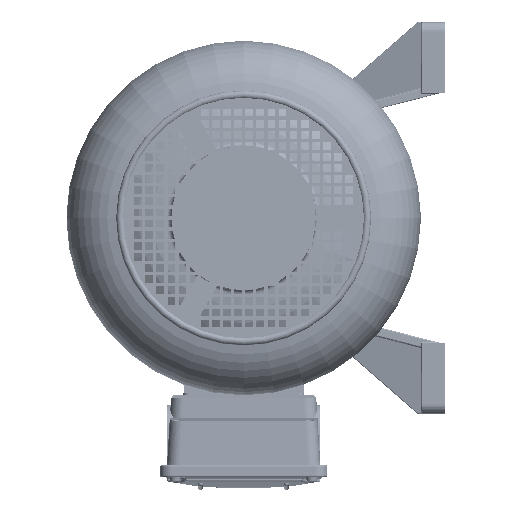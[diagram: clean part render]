
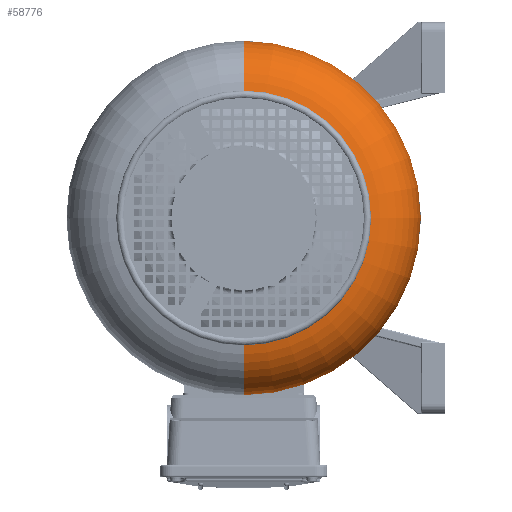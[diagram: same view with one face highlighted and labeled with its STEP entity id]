
A CAD part, left-side view. The second image highlights one B-rep face of the part: STEP entity #58776.
In plain terms, the highlighted toroidal (fillet/blend) face has major radius 118 mm and minor radius 57.5 mm.
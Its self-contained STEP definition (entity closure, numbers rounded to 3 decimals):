
#10969 = CARTESIAN_POINT ( 'NONE',  ( 92.962, 0., 0. ) ) ;
#19279 = CARTESIAN_POINT ( 'NONE',  ( 149.861, 0., -126.291 ) ) ;
#24222 = DIRECTION ( 'NONE',  ( 0., 0., 1. ) ) ;
#24245 = FACE_OUTER_BOUND ( 'NONE', #146290, .T. ) ;
#25855 = DIRECTION ( 'NONE',  ( 0., -1., 0. ) ) ;
#31811 = DIRECTION ( 'NONE',  ( -1., 0., 0. ) ) ;
#31864 = CARTESIAN_POINT ( 'NONE',  ( 92.962, 0., -175.5 ) ) ;
#44048 = DIRECTION ( 'NONE',  ( -1., 0., 0. ) ) ;
#45779 = ORIENTED_EDGE ( 'NONE', *, *, #134787, .F. ) ;
#58776 = ADVANCED_FACE ( 'NONE', ( #24245 ), #59190, .T. ) ;
#59190 = TOROIDAL_SURFACE ( 'NONE', #111826, 118., 57.5 ) ;
#62662 = ORIENTED_EDGE ( 'NONE', *, *, #124537, .F. ) ;
#63127 = AXIS2_PLACEMENT_3D ( 'NONE', #122537, #44048, #135764 ) ;
#65434 = ORIENTED_EDGE ( 'NONE', *, *, #124934, .T. ) ;
#71198 = AXIS2_PLACEMENT_3D ( 'NONE', #110370, #31811, #123516 ) ;
#74765 = DIRECTION ( 'NONE',  ( -1., 0., 0. ) ) ;
#77745 = CARTESIAN_POINT ( 'NONE',  ( 92.962, 0., -118. ) ) ;
#82345 = EDGE_CURVE ( 'NONE', #121394, #141443, #151448, .T. ) ;
#86750 = VERTEX_POINT ( 'NONE', #31864 ) ;
#88923 = VERTEX_POINT ( 'NONE', #141527 ) ;
#90939 = DIRECTION ( 'NONE',  ( 0., 0., 1. ) ) ;
#97729 = CIRCLE ( 'NONE', #112572, 57.5 ) ;
#104439 = CARTESIAN_POINT ( 'NONE',  ( 92.962, 0., 118. ) ) ;
#110370 = CARTESIAN_POINT ( 'NONE',  ( 149.861, 0., 0. ) ) ;
#111826 = AXIS2_PLACEMENT_3D ( 'NONE', #10969, #74765, #24222 ) ;
#112572 = AXIS2_PLACEMENT_3D ( 'NONE', #77745, #169372, #90939 ) ;
#117582 = DIRECTION ( 'NONE',  ( 0., 0., -1. ) ) ;
#119091 = AXIS2_PLACEMENT_3D ( 'NONE', #104439, #25855, #117582 ) ;
#121394 = VERTEX_POINT ( 'NONE', #140096 ) ;
#122527 = CIRCLE ( 'NONE', #119091, 57.5 ) ;
#122537 = CARTESIAN_POINT ( 'NONE',  ( 92.962, 0., 0. ) ) ;
#123516 = DIRECTION ( 'NONE',  ( 0., 0., 1. ) ) ;
#124537 = EDGE_CURVE ( 'NONE', #88923, #86750, #142911, .T. ) ;
#124934 = EDGE_CURVE ( 'NONE', #141443, #86750, #97729, .T. ) ;
#134787 = EDGE_CURVE ( 'NONE', #121394, #88923, #122527, .T. ) ;
#135764 = DIRECTION ( 'NONE',  ( 0., 0., 1. ) ) ;
#140096 = CARTESIAN_POINT ( 'NONE',  ( 149.861, 0., 126.291 ) ) ;
#141443 = VERTEX_POINT ( 'NONE', #19279 ) ;
#141527 = CARTESIAN_POINT ( 'NONE',  ( 92.962, 0., 175.5 ) ) ;
#142911 = CIRCLE ( 'NONE', #63127, 175.5 ) ;
#146290 = EDGE_LOOP ( 'NONE', ( #162082, #65434, #62662, #45779 ) ) ;
#151448 = CIRCLE ( 'NONE', #71198, 126.291 ) ;
#162082 = ORIENTED_EDGE ( 'NONE', *, *, #82345, .T. ) ;
#169372 = DIRECTION ( 'NONE',  ( 0., 1., 0. ) ) ;
